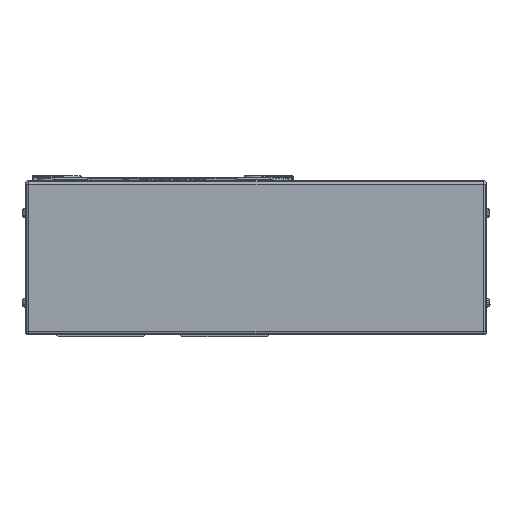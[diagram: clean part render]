
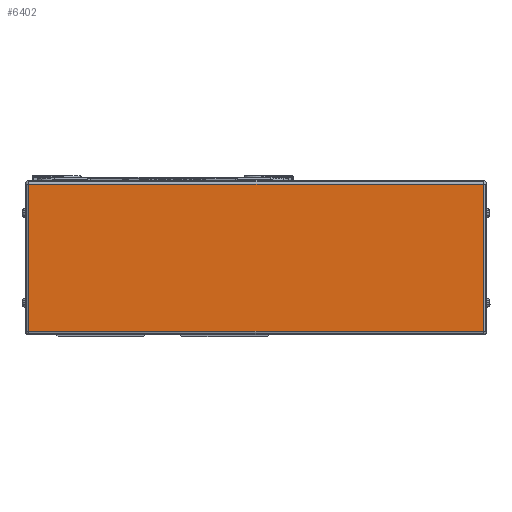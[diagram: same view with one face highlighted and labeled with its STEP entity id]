
A CAD part, left-side view. The second image highlights one B-rep face of the part: STEP entity #6402.
In plain terms, the highlighted planar face has unit normal (-1, 0, 0).
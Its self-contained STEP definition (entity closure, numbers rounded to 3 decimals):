
#6402=ADVANCED_FACE('',(#13201),#13202,.T.);
#13201=FACE_OUTER_BOUND('',#21585,.T.);
#13202=PLANE('',#21586);
#21585=EDGE_LOOP('',(#39727,#39728,#39729,#39730));
#21586=AXIS2_PLACEMENT_3D('',#39731,#39732,#39733);
#39727=ORIENTED_EDGE('',*,*,#50388,.F.);
#39728=ORIENTED_EDGE('',*,*,#46856,.F.);
#39729=ORIENTED_EDGE('',*,*,#50273,.F.);
#39730=ORIENTED_EDGE('',*,*,#50129,.F.);
#39731=CARTESIAN_POINT('',(-45.,-180.5,0.));
#39732=DIRECTION('',(-1.0,0.,0.));
#39733=DIRECTION('',(0.,0.,1.0));
#46856=EDGE_CURVE('',#57283,#51317,#57285,.T.);
#50129=EDGE_CURVE('',#59996,#56857,#61596,.T.);
#50273=EDGE_CURVE('',#56857,#57283,#61756,.T.);
#50388=EDGE_CURVE('',#51317,#59996,#61877,.T.);
#51317=VERTEX_POINT('',#62950);
#56857=VERTEX_POINT('',#71343);
#57283=VERTEX_POINT('',#71881);
#57285=LINE('',#71883,#71884);
#59996=VERTEX_POINT('',#75662);
#61596=LINE('',#78054,#78055);
#61756=LINE('',#78262,#78263);
#61877=LINE('',#78404,#78405);
#62950=CARTESIAN_POINT('',(-45.,-178.5,41.));
#71343=CARTESIAN_POINT('',(-45.,74.5,-41.));
#71881=CARTESIAN_POINT('',(-45.,74.5,41.));
#71883=CARTESIAN_POINT('',(-45.,-180.5,41.));
#71884=VECTOR('',#84493,10.0);
#75662=CARTESIAN_POINT('',(-45.,-178.5,-41.));
#78054=CARTESIAN_POINT('',(-45.,-180.5,-41.));
#78055=VECTOR('',#88445,10.0);
#78262=CARTESIAN_POINT('',(-45.,74.5,0.));
#78263=VECTOR('',#88586,10.0);
#78404=CARTESIAN_POINT('',(-45.,-178.5,0.));
#78405=VECTOR('',#88679,10.0);
#84493=DIRECTION('',(0.,-1.0,0.));
#88445=DIRECTION('',(0.,1.0,0.));
#88586=DIRECTION('',(0.,0.,1.0));
#88679=DIRECTION('',(0.,0.,-1.0));
